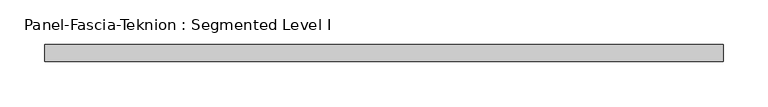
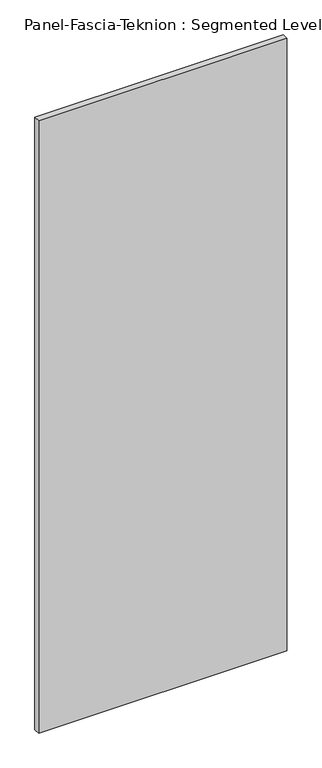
"""IFC4 building model written with IfcOpenShell, lengths in millimetres: proxy geometry, Panel-Fascia-Teknion : Segmented Level I."""

from ifc_helpers import new_model, si_unit, frame, origin, place, context, project, spatial, polyline, outline, extrude, source, transform, mapped, element, save


def panel_fascia_teknion_segmented_level_i_162446fb(model_context):
    return source(origin(), model_context, "Body", "SweptSolid", [
        extrude(outline(polyline([(378.4203125, 9.525), (378.4203125, -9.525), (-378.4203125, -9.525), (-378.4203125, 9.525), (378.4203125, 9.525)])), frame((0.0, 0.0, 3.175), z_axis=(0.0, 0.0, 1.0), x_axis=(1.0, 0.0, 0.0)), (0.0, 0.0, 1.0), 1974.85),
    ])


if __name__ == "__main__":
    model = new_model("IFC4")
    model_context = context("Model", 3, world=origin())
    ifc_project = project(units=[si_unit("LENGTHUNIT", "METRE", prefix="MILLI")], contexts=[model_context])
    site = spatial("IfcSite", under=ifc_project)
    building = spatial("IfcBuilding", under=site)
    placement = place(None, origin())
    panel_fascia_teknion_segmented_level_i_shape = panel_fascia_teknion_segmented_level_i_162446fb(model_context)
    element("IfcBuildingElementProxy", 1, Name="Panel-Fascia-Teknion : Segmented Level I", ObjectType="Panel-Fascia-Teknion : Segmented Level I", at=placement, inside=building, context=model_context, shape_type="MappedRepresentation", body=[
        mapped(panel_fascia_teknion_segmented_level_i_shape, transform((0.0, 0.0, 0.0), x_axis=(1.0, 0.0, 0.0), y_axis=(0.0, 1.0, 0.0), z_axis=(0.0, 0.0, 1.0))),
    ])
    save(model, "model.ifc")
